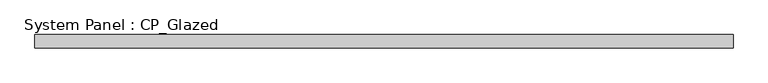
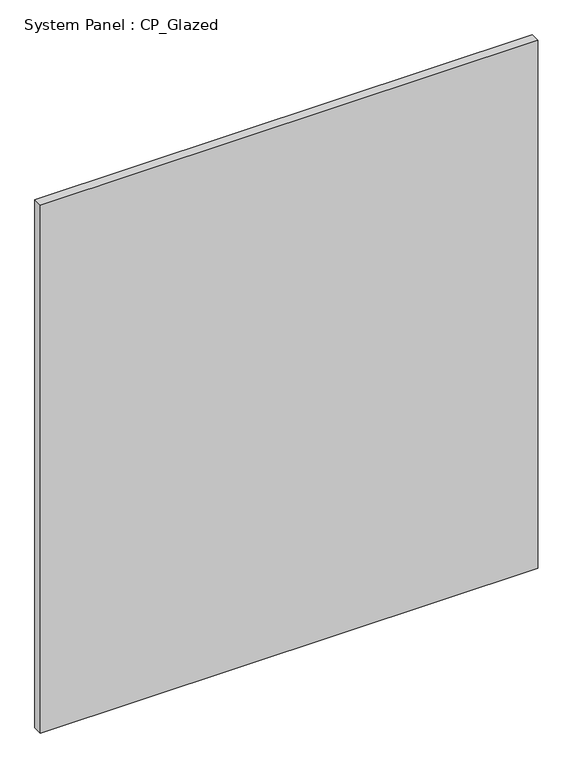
"""IFC4 building model written with IfcOpenShell, lengths in millimetres: plate geometry, System Panel : CP_Glazed."""

from ifc_helpers import new_model, si_unit, origin, origin_with_axes, place, context, project, spatial, polyline, outline, extrude, source, transform, mapped, element, save


def system_panel_cp_glazed_981f8250(model_context):
    return source(origin(), model_context, "Body", "SweptSolid", [
        extrude(outline(polyline([(659.209375, 19.05), (-659.209375, 19.05), (-659.209375, 44.45), (659.209375, 44.45), (659.209375, 19.05)])), origin_with_axes(), (0.0, 0.0, 1.0), 1479.55),
    ])


if __name__ == "__main__":
    model = new_model("IFC4")
    model_context = context("Model", 3, world=origin())
    ifc_project = project(units=[si_unit("LENGTHUNIT", "METRE", prefix="MILLI")], contexts=[model_context])
    site = spatial("IfcSite", under=ifc_project)
    building = spatial("IfcBuilding", under=site)
    placement = place(None, origin())
    system_panel_cp_glazed_shape = system_panel_cp_glazed_981f8250(model_context)
    element("IfcPlate", 1, ObjectType="System Panel : CP_Glazed", at=placement, inside=building, context=model_context, shape_type="MappedRepresentation", body=[
        mapped(system_panel_cp_glazed_shape, transform((0.0, 0.0, 0.0), x_axis=(1.0, 0.0, 0.0), y_axis=(0.0, 1.0, 0.0), z_axis=(0.0, 0.0, 1.0))),
    ])
    save(model, "model.ifc")
